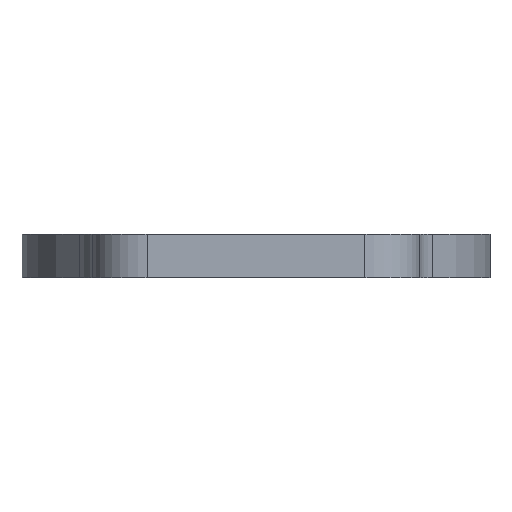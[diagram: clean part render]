
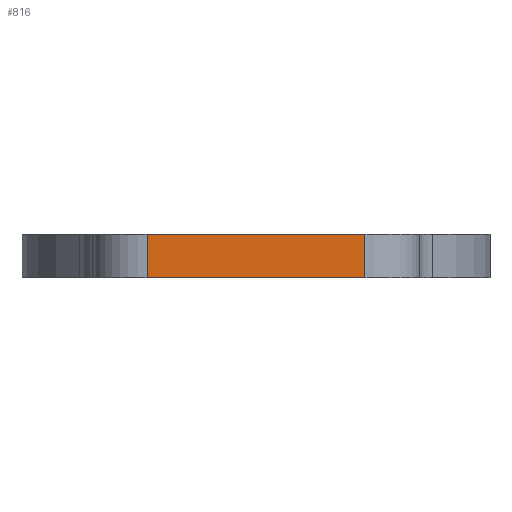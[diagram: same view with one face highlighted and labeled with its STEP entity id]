
A CAD part, left-side view. The second image highlights one B-rep face of the part: STEP entity #816.
In plain terms, the highlighted planar face has unit normal (-1, 0, 0).
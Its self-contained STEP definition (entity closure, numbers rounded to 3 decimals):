
#5 = EDGE_CURVE ( 'NONE', #539, #847, #669, .T. ) ;
#80 = EDGE_CURVE ( 'NONE', #964, #539, #119, .T. ) ;
#115 = FACE_OUTER_BOUND ( 'NONE', #623, .T. ) ;
#119 = LINE ( 'NONE', #482, #730 ) ;
#152 = ORIENTED_EDGE ( 'NONE', *, *, #781, .T. ) ;
#174 = CARTESIAN_POINT ( 'NONE',  ( -60., 10., 4. ) ) ;
#184 = DIRECTION ( 'NONE',  ( 0., 0., -1. ) ) ;
#288 = ORIENTED_EDGE ( 'NONE', *, *, #5, .T. ) ;
#290 = CARTESIAN_POINT ( 'NONE',  ( -60., -10., 4. ) ) ;
#331 = CARTESIAN_POINT ( 'NONE',  ( -60., -10., 0. ) ) ;
#332 = DIRECTION ( 'NONE',  ( 0., -1., 0. ) ) ;
#335 = CARTESIAN_POINT ( 'NONE',  ( -60., 10., 0. ) ) ;
#386 = DIRECTION ( 'NONE',  ( 0., -1., 0. ) ) ;
#406 = PLANE ( 'NONE',  #746 ) ;
#407 = ORIENTED_EDGE ( 'NONE', *, *, #80, .T. ) ;
#419 = DIRECTION ( 'NONE',  ( 1., 0., 0. ) ) ;
#456 = CARTESIAN_POINT ( 'NONE',  ( -60., 0., 4. ) ) ;
#462 = CARTESIAN_POINT ( 'NONE',  ( -60., 10., 4. ) ) ;
#468 = CARTESIAN_POINT ( 'NONE',  ( -60., -10., 4. ) ) ;
#482 = CARTESIAN_POINT ( 'NONE',  ( -60., 0., 0. ) ) ;
#490 = VECTOR ( 'NONE', #184, 1000. ) ;
#539 = VERTEX_POINT ( 'NONE', #331 ) ;
#548 = DIRECTION ( 'NONE',  ( 0., 0., -1. ) ) ;
#562 = VECTOR ( 'NONE', #386, 1000. ) ;
#566 = ORIENTED_EDGE ( 'NONE', *, *, #884, .F. ) ;
#582 = VECTOR ( 'NONE', #589, 1000. ) ;
#589 = DIRECTION ( 'NONE',  ( 0., 0., 1. ) ) ;
#606 = LINE ( 'NONE', #456, #562 ) ;
#623 = EDGE_LOOP ( 'NONE', ( #407, #288, #566, #152 ) ) ;
#669 = LINE ( 'NONE', #290, #582 ) ;
#727 = VERTEX_POINT ( 'NONE', #462 ) ;
#730 = VECTOR ( 'NONE', #332, 1000. ) ;
#746 = AXIS2_PLACEMENT_3D ( 'NONE', #927, #419, #548 ) ;
#781 = EDGE_CURVE ( 'NONE', #727, #964, #921, .T. ) ;
#816 = ADVANCED_FACE ( 'NONE', ( #115 ), #406, .F. ) ;
#847 = VERTEX_POINT ( 'NONE', #468 ) ;
#884 = EDGE_CURVE ( 'NONE', #727, #847, #606, .T. ) ;
#921 = LINE ( 'NONE', #174, #490 ) ;
#927 = CARTESIAN_POINT ( 'NONE',  ( -60., 0., 4. ) ) ;
#964 = VERTEX_POINT ( 'NONE', #335 ) ;
